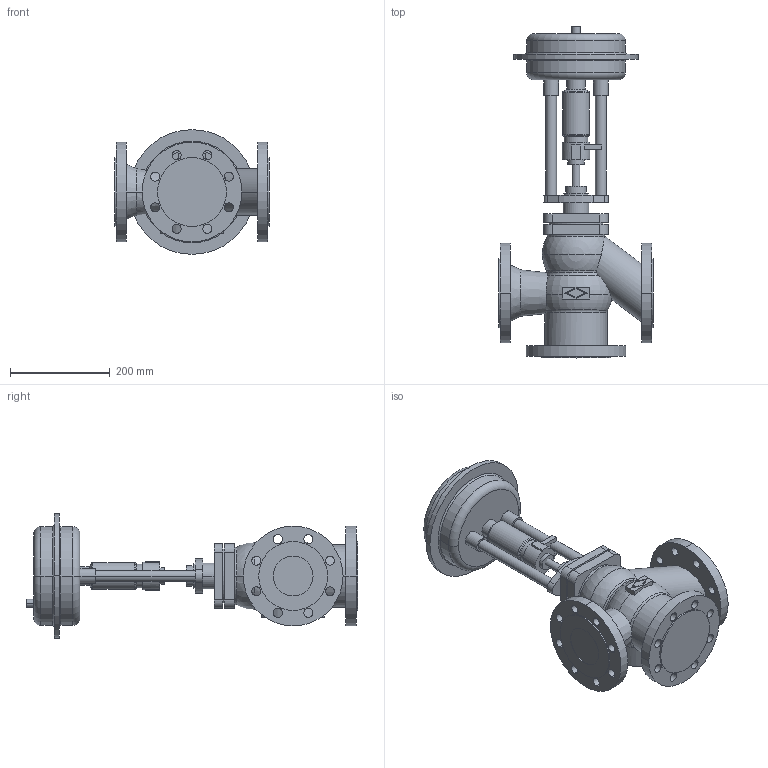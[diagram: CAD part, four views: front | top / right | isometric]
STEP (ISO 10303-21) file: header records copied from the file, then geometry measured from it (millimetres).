
FILE_DESCRIPTION(('OneSpaceDesigner STEP Export'),'2;1');
FILE_NAME('c000000657.stp','2006-09-13T12:59:39',(''),(''),'OneSpace Designer STEP processor for AP214 (Solid Model)','OneSpace Designer 13.20A 18-Aug-2005 (C) CoCreate Software GmbH','');
FILE_SCHEMA(('AUTOMOTIVE_DESIGN { 1 0 10303 214 1 1 1 1 }'));
Length unit declared in the file: millimetre
Products named in the file (2): 1; 2
Bounding box: 310 x 665.5 x 250 mm (x, y, z)
Volume: 10645137.8 mm3; surface area: 651173.5 mm2
Topology: 2 solids, 2 shells, 238 faces, 600 edges, 390 vertices
Faces by surface type: cylinder 120, plane 77, torus 29, cone 8, sphere 4
Entity records: 6560 total; most frequent: CARTESIAN_POINT 1360, ORIENTED_EDGE 1192, DIRECTION 922, EDGE_CURVE 596, VERTEX_POINT 390, AXIS2_PLACEMENT_3D 342, EDGE_LOOP 314, FACE_OUTER_BOUND 238
